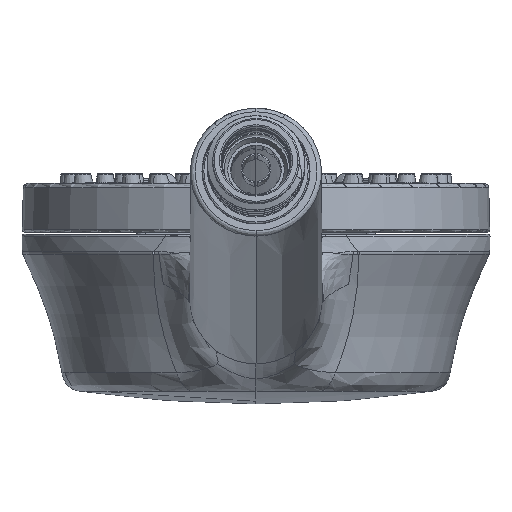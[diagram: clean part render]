
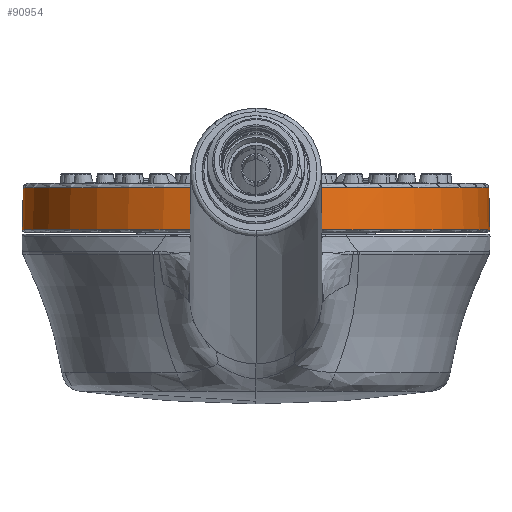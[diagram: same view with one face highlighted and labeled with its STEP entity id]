
A CAD part, front view. The second image highlights one B-rep face of the part: STEP entity #90954.
In plain terms, the highlighted conical face has half-angle 1.5 degrees and reference radius 49.87 mm.
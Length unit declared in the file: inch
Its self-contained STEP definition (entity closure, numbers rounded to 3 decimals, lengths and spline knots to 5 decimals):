
#80 = CARTESIAN_POINT ( 'NONE',  ( 0., 0.20308, 0.03976 ) ) ;
#1853 = CARTESIAN_POINT ( 'NONE',  ( -0.13206, -1.76042, 0.04146 ) ) ;
#2707 = CARTESIAN_POINT ( 'NONE',  ( -0.13206, -1.76046, 0.03976 ) ) ;
#4220 = EDGE_CURVE ( 'NONE', #162142, #165365, #120215, .T. ) ;
#6642 = ORIENTED_EDGE ( 'NONE', *, *, #90750, .T. ) ;
#16517 = CARTESIAN_POINT ( 'NONE',  ( -0.13205, -1.7604, 0.04232 ) ) ;
#16920 = CARTESIAN_POINT ( 'NONE',  ( 0.12609, -1.75469, 0.27475 ) ) ;
#17020 = DIRECTION ( 'NONE',  ( 0., -1., 0. ) ) ;
#17371 = CARTESIAN_POINT ( 'NONE',  ( -0.13207, -1.76044, 0.04061 ) ) ;
#17830 = B_SPLINE_CURVE_WITH_KNOTS ( 'NONE', 3,
 ( #121405, #124825, #59055, #163792, #55655, #68621 ),
 .UNSPECIFIED., .F., .F.,
 ( 4, 1, 1, 4 ),
 ( 0., 0.33333, 0.66667, 1. ),
 .UNSPECIFIED. ) ;
#18621 = CARTESIAN_POINT ( 'NONE',  ( 0.12311, -1.75182, 0.39112 ) ) ;
#19613 = EDGE_CURVE ( 'NONE', #129044, #53495, #19694, .T. ) ;
#19694 = CIRCLE ( 'NONE', #152398, 1.96797 ) ;
#21008 = CARTESIAN_POINT ( 'NONE',  ( -0.13105, -1.75945, 0.08103 ) ) ;
#21788 = AXIS2_PLACEMENT_3D ( 'NONE', #113579, #84189, #139547 ) ;
#29872 = CARTESIAN_POINT ( 'NONE',  ( 0.12411, -1.75278, 0.35232 ) ) ;
#33773 = ORIENTED_EDGE ( 'NONE', *, *, #133110, .F. ) ;
#36675 = CARTESIAN_POINT ( 'NONE',  ( 0.01737, 2.16177, 0.39112 ) ) ;
#47247 = CARTESIAN_POINT ( 'NONE',  ( 0., 0.20308, 0.21544 ) ) ;
#50204 = ORIENTED_EDGE ( 'NONE', *, *, #154601, .T. ) ;
#50383 = CARTESIAN_POINT ( 'NONE',  ( -0.12411, -1.75278, 0.35232 ) ) ;
#51473 = VERTEX_POINT ( 'NONE', #36675 ) ;
#52838 = DIRECTION ( 'NONE',  ( 0.067, -0.998, 0. ) ) ;
#53495 = VERTEX_POINT ( 'NONE', #71768 ) ;
#54603 = CARTESIAN_POINT ( 'NONE',  ( -0.13205, -1.7604, 0.04203 ) ) ;
#55655 = CARTESIAN_POINT ( 'NONE',  ( 0.13205, -1.7604, 0.04203 ) ) ;
#59055 = CARTESIAN_POINT ( 'NONE',  ( 0.13207, -1.76044, 0.04061 ) ) ;
#64091 = DIRECTION ( 'NONE',  ( 0., 0., 1. ) ) ;
#64190 = CARTESIAN_POINT ( 'NONE',  ( -0.13205, -1.7604, 0.04232 ) ) ;
#68621 = CARTESIAN_POINT ( 'NONE',  ( 0.13205, -1.7604, 0.04232 ) ) ;
#71768 = CARTESIAN_POINT ( 'NONE',  ( -0.13206, -1.76046, 0.03976 ) ) ;
#73779 = CARTESIAN_POINT ( 'NONE',  ( -0.12907, -1.75755, 0.15848 ) ) ;
#75113 = DIRECTION ( 'NONE',  ( 0., 0., -1. ) ) ;
#76660 = ORIENTED_EDGE ( 'NONE', *, *, #4220, .F. ) ;
#76815 = ORIENTED_EDGE ( 'NONE', *, *, #19613, .T. ) ;
#78538 = AXIS2_PLACEMENT_3D ( 'NONE', #167705, #75113, #157306 ) ;
#80934 = EDGE_CURVE ( 'NONE', #53495, #95310, #137843, .T. ) ;
#84189 = DIRECTION ( 'NONE',  ( 0., 0., -1. ) ) ;
#86882 = EDGE_LOOP ( 'NONE', ( #76660, #33773, #76815, #126243, #50204, #154473, #6642 ) ) ;
#90750 = EDGE_CURVE ( 'NONE', #51473, #165365, #106199, .T. ) ;
#90954 = ADVANCED_FACE ( 'NONE', ( #165816 ), #122733, .T. ) ;
#95310 = VERTEX_POINT ( 'NONE', #96966 ) ;
#95999 = CARTESIAN_POINT ( 'NONE',  ( -0.12311, -1.75182, 0.39112 ) ) ;
#96966 = CARTESIAN_POINT ( 'NONE',  ( -0.13205, -1.7604, 0.04232 ) ) ;
#100042 = DIRECTION ( 'NONE',  ( 0., 0., -1. ) ) ;
#101977 = CIRCLE ( 'NONE', #21788, 1.95877 ) ;
#104271 = CARTESIAN_POINT ( 'NONE',  ( 0.12311, -1.75182, 0.39112 ) ) ;
#106199 = CIRCLE ( 'NONE', #78538, 1.95877 ) ;
#111453 = B_SPLINE_CURVE_WITH_KNOTS ( 'NONE', 3,
 ( #64190, #21008, #73779, #168932, #50383, #128264 ),
 .UNSPECIFIED., .F., .F.,
 ( 4, 1, 1, 4 ),
 ( 0., 0.33333, 0.66667, 1. ),
 .UNSPECIFIED. ) ;
#113579 = CARTESIAN_POINT ( 'NONE',  ( 0., 0.20308, 0.39112 ) ) ;
#120215 = B_SPLINE_CURVE_WITH_KNOTS ( 'NONE', 3,
 ( #163997, #123304, #135441, #16920, #29872, #18621 ),
 .UNSPECIFIED., .F., .F.,
 ( 4, 1, 1, 4 ),
 ( 0., 0.33333, 0.66667, 1. ),
 .UNSPECIFIED. ) ;
#121405 = CARTESIAN_POINT ( 'NONE',  ( 0.13206, -1.76046, 0.03976 ) ) ;
#122733 = CONICAL_SURFACE ( 'NONE', #133860, 1.96337, 0.026 ) ;
#123304 = CARTESIAN_POINT ( 'NONE',  ( 0.13105, -1.75945, 0.08103 ) ) ;
#124825 = CARTESIAN_POINT ( 'NONE',  ( 0.13207, -1.76045, 0.04004 ) ) ;
#126243 = ORIENTED_EDGE ( 'NONE', *, *, #80934, .T. ) ;
#128264 = CARTESIAN_POINT ( 'NONE',  ( -0.12311, -1.75182, 0.39112 ) ) ;
#129044 = VERTEX_POINT ( 'NONE', #142044 ) ;
#133110 = EDGE_CURVE ( 'NONE', #129044, #162142, #17830, .T. ) ;
#133860 = AXIS2_PLACEMENT_3D ( 'NONE', #47247, #100042, #17020 ) ;
#135044 = CARTESIAN_POINT ( 'NONE',  ( -0.13207, -1.76045, 0.04004 ) ) ;
#135441 = CARTESIAN_POINT ( 'NONE',  ( 0.12907, -1.75755, 0.15848 ) ) ;
#137843 = B_SPLINE_CURVE_WITH_KNOTS ( 'NONE', 3,
 ( #2707, #135044, #17371, #1853, #54603, #16517 ),
 .UNSPECIFIED., .F., .F.,
 ( 4, 1, 1, 4 ),
 ( 0., 0.33333, 0.66667, 1. ),
 .UNSPECIFIED. ) ;
#137929 = VERTEX_POINT ( 'NONE', #95999 ) ;
#139547 = DIRECTION ( 'NONE',  ( -0.063, -0.998, 0. ) ) ;
#140506 = EDGE_CURVE ( 'NONE', #137929, #51473, #101977, .T. ) ;
#142044 = CARTESIAN_POINT ( 'NONE',  ( 0.13206, -1.76046, 0.03976 ) ) ;
#152398 = AXIS2_PLACEMENT_3D ( 'NONE', #80, #64091, #52838 ) ;
#154473 = ORIENTED_EDGE ( 'NONE', *, *, #140506, .T. ) ;
#154601 = EDGE_CURVE ( 'NONE', #95310, #137929, #111453, .T. ) ;
#157306 = DIRECTION ( 'NONE',  ( -0.063, -0.998, 0. ) ) ;
#162142 = VERTEX_POINT ( 'NONE', #163673 ) ;
#163673 = CARTESIAN_POINT ( 'NONE',  ( 0.13205, -1.7604, 0.04232 ) ) ;
#163792 = CARTESIAN_POINT ( 'NONE',  ( 0.13206, -1.76042, 0.04146 ) ) ;
#163997 = CARTESIAN_POINT ( 'NONE',  ( 0.13205, -1.7604, 0.04232 ) ) ;
#165365 = VERTEX_POINT ( 'NONE', #104271 ) ;
#165816 = FACE_OUTER_BOUND ( 'NONE', #86882, .T. ) ;
#167705 = CARTESIAN_POINT ( 'NONE',  ( 0., 0.20308, 0.39112 ) ) ;
#168932 = CARTESIAN_POINT ( 'NONE',  ( -0.12609, -1.75469, 0.27475 ) ) ;
